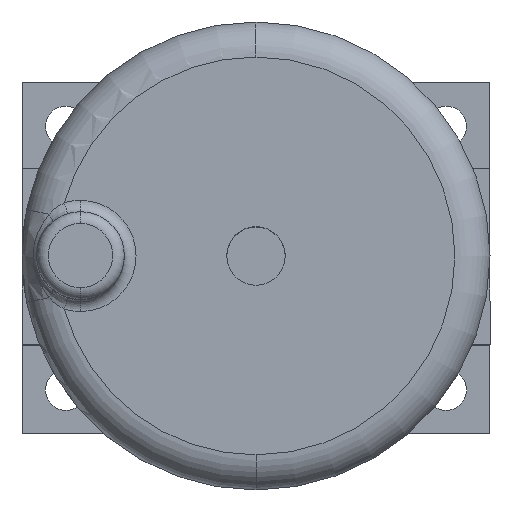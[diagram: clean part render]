
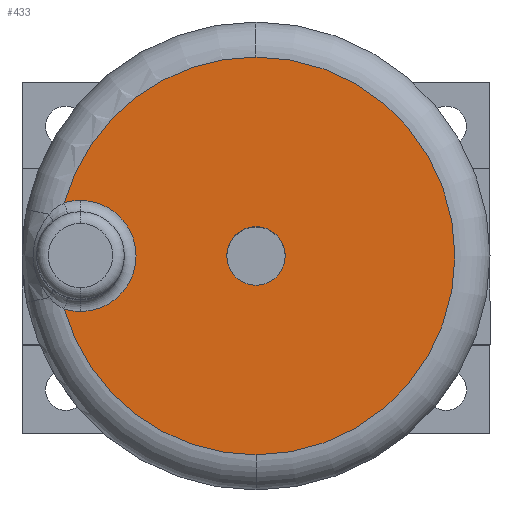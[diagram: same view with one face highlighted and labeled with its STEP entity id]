
A CAD part, top view. The second image highlights one B-rep face of the part: STEP entity #433.
In plain terms, the highlighted planar face has unit normal (0, 0, 1) as drawn and (1, 0, 0) by its records, which use the part's own axes.
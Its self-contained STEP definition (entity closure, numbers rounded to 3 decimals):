
#72 = CARTESIAN_POINT ( 'NONE',  ( 46., 0., 34. ) ) ;
#183 = CARTESIAN_POINT ( 'NONE',  ( 46., 0., 0. ) ) ;
#198 = CIRCLE ( 'NONE', #1489, 34. ) ;
#280 = VERTEX_POINT ( 'NONE', #3058 ) ;
#312 = CARTESIAN_POINT ( 'NONE',  ( 46., 0., 0. ) ) ;
#356 = ORIENTED_EDGE ( 'NONE', *, *, #1336, .T. ) ;
#378 = CARTESIAN_POINT ( 'NONE',  ( 46., 32.763, 9.089 ) ) ;
#433 = ADVANCED_FACE ( 'NONE', ( #2582, #2350 ), #977, .F. ) ;
#452 = CIRCLE ( 'NONE', #2132, 34. ) ;
#470 = CARTESIAN_POINT ( 'NONE',  ( 46., 0., 0. ) ) ;
#479 = ORIENTED_EDGE ( 'NONE', *, *, #738, .T. ) ;
#498 = EDGE_LOOP ( 'NONE', ( #2389, #2046, #479, #2511, #356, #3145 ) ) ;
#625 = CIRCLE ( 'NONE', #2870, 5. ) ;
#646 = AXIS2_PLACEMENT_3D ( 'NONE', #1180, #2888, #927 ) ;
#705 = DIRECTION ( 'NONE',  ( 0., 0., 1. ) ) ;
#738 = EDGE_CURVE ( 'NONE', #280, #756, #198, .T. ) ;
#756 = VERTEX_POINT ( 'NONE', #3118 ) ;
#762 = DIRECTION ( 'NONE',  ( 1., 0., 0. ) ) ;
#837 = EDGE_CURVE ( 'NONE', #2508, #2979, #625, .T. ) ;
#856 = DIRECTION ( 'NONE',  ( 1., 0., 0. ) ) ;
#865 = AXIS2_PLACEMENT_3D ( 'NONE', #2172, #2764, #2998 ) ;
#927 = DIRECTION ( 'NONE',  ( 0., 0., 1. ) ) ;
#934 = DIRECTION ( 'NONE',  ( 0., 0., 1. ) ) ;
#977 = PLANE ( 'NONE',  #2587 ) ;
#984 = AXIS2_PLACEMENT_3D ( 'NONE', #1447, #2431, #2188 ) ;
#1106 = DIRECTION ( 'NONE',  ( 0., 0., -1. ) ) ;
#1180 = CARTESIAN_POINT ( 'NONE',  ( 46., 30., 0. ) ) ;
#1242 = CARTESIAN_POINT ( 'NONE',  ( 46., 30., -9.5 ) ) ;
#1336 = EDGE_CURVE ( 'NONE', #1534, #2948, #1715, .T. ) ;
#1376 = CARTESIAN_POINT ( 'NONE',  ( 46., 30., 0. ) ) ;
#1444 = CIRCLE ( 'NONE', #865, 34. ) ;
#1447 = CARTESIAN_POINT ( 'NONE',  ( 46., 30., 0. ) ) ;
#1489 = AXIS2_PLACEMENT_3D ( 'NONE', #183, #762, #2153 ) ;
#1508 = CARTESIAN_POINT ( 'NONE',  ( 46., 0., 0. ) ) ;
#1529 = CARTESIAN_POINT ( 'NONE',  ( 46., 0., -5. ) ) ;
#1534 = VERTEX_POINT ( 'NONE', #1242 ) ;
#1687 = CARTESIAN_POINT ( 'NONE',  ( 46., 0., 0. ) ) ;
#1715 = CIRCLE ( 'NONE', #2145, 9.5 ) ;
#1737 = VERTEX_POINT ( 'NONE', #72 ) ;
#1743 = AXIS2_PLACEMENT_3D ( 'NONE', #1508, #856, #1106 ) ;
#1769 = DIRECTION ( 'NONE',  ( 1., 0., 0. ) ) ;
#1928 = VERTEX_POINT ( 'NONE', #378 ) ;
#1961 = DIRECTION ( 'NONE',  ( -1., 0., 0. ) ) ;
#2007 = EDGE_CURVE ( 'NONE', #756, #1534, #2276, .T. ) ;
#2046 = ORIENTED_EDGE ( 'NONE', *, *, #2749, .T. ) ;
#2074 = CIRCLE ( 'NONE', #984, 9.5 ) ;
#2091 = EDGE_CURVE ( 'NONE', #2948, #1928, #2074, .T. ) ;
#2132 = AXIS2_PLACEMENT_3D ( 'NONE', #470, #2399, #2677 ) ;
#2145 = AXIS2_PLACEMENT_3D ( 'NONE', #1376, #2905, #934 ) ;
#2153 = DIRECTION ( 'NONE',  ( 0., 0., 1. ) ) ;
#2172 = CARTESIAN_POINT ( 'NONE',  ( 46., 0., 0. ) ) ;
#2173 = EDGE_CURVE ( 'NONE', #1928, #1737, #452, .T. ) ;
#2188 = DIRECTION ( 'NONE',  ( 0., 0., 1. ) ) ;
#2276 = CIRCLE ( 'NONE', #646, 9.5 ) ;
#2350 = FACE_BOUND ( 'NONE', #2557, .T. ) ;
#2389 = ORIENTED_EDGE ( 'NONE', *, *, #2173, .T. ) ;
#2399 = DIRECTION ( 'NONE',  ( 1., 0., 0. ) ) ;
#2431 = DIRECTION ( 'NONE',  ( -1., 0., 0. ) ) ;
#2491 = ORIENTED_EDGE ( 'NONE', *, *, #837, .F. ) ;
#2507 = DIRECTION ( 'NONE',  ( 0., 0., -1. ) ) ;
#2508 = VERTEX_POINT ( 'NONE', #2768 ) ;
#2511 = ORIENTED_EDGE ( 'NONE', *, *, #2007, .T. ) ;
#2557 = EDGE_LOOP ( 'NONE', ( #2874, #2491 ) ) ;
#2582 = FACE_OUTER_BOUND ( 'NONE', #498, .T. ) ;
#2587 = AXIS2_PLACEMENT_3D ( 'NONE', #1687, #1961, #705 ) ;
#2677 = DIRECTION ( 'NONE',  ( 0., 0., 1. ) ) ;
#2748 = CARTESIAN_POINT ( 'NONE',  ( 46., 30., 9.5 ) ) ;
#2749 = EDGE_CURVE ( 'NONE', #1737, #280, #1444, .T. ) ;
#2758 = CIRCLE ( 'NONE', #1743, 5. ) ;
#2764 = DIRECTION ( 'NONE',  ( 1., 0., 0. ) ) ;
#2768 = CARTESIAN_POINT ( 'NONE',  ( 46., 0., 5. ) ) ;
#2870 = AXIS2_PLACEMENT_3D ( 'NONE', #312, #1769, #2507 ) ;
#2874 = ORIENTED_EDGE ( 'NONE', *, *, #3042, .F. ) ;
#2888 = DIRECTION ( 'NONE',  ( -1., 0., 0. ) ) ;
#2905 = DIRECTION ( 'NONE',  ( -1., 0., 0. ) ) ;
#2948 = VERTEX_POINT ( 'NONE', #2748 ) ;
#2979 = VERTEX_POINT ( 'NONE', #1529 ) ;
#2998 = DIRECTION ( 'NONE',  ( 0., 0., 1. ) ) ;
#3042 = EDGE_CURVE ( 'NONE', #2979, #2508, #2758, .T. ) ;
#3058 = CARTESIAN_POINT ( 'NONE',  ( 46., 0., -34. ) ) ;
#3118 = CARTESIAN_POINT ( 'NONE',  ( 46., 32.763, -9.089 ) ) ;
#3145 = ORIENTED_EDGE ( 'NONE', *, *, #2091, .T. ) ;
